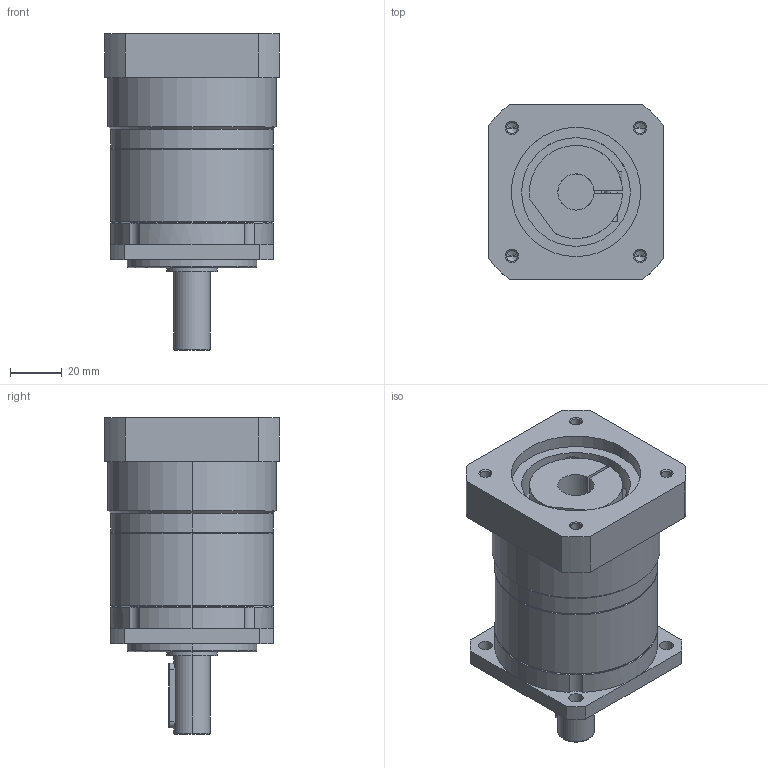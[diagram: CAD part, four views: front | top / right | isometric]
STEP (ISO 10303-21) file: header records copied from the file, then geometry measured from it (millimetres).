
FILE_DESCRIPTION(/* description */ (''),/* implementation_level */ '2;1');
FILE_NAME(/* name */ 'GPBS065-单节 外形图-∅14x36.5-∅50x6-∅70xM5-□65_step.stp',/* time_stamp */ '2025-03-20T13:20:06+08:00',/* author */ (''),/* organization */ (''),/* preprocessor_version */ 'ST-DEVELOPER v18.102',/* originating_system */ 'SIEMENS PLM Software NX 2027',/* authorisation */ '');
FILE_SCHEMA (('AUTOMOTIVE_DESIGN { 1 0 10303 214 3 1 1 1 }'));
Length unit declared in the file: millimetre
Products named in the file (1): GPBS065-单节 外形图-∅14x36.5-∅5
0x6-∅70xM5-□65_step_objects
Bounding box: 67.5 x 67.5 x 122.5 mm (x, y, z)
Volume: 292028.3 mm3; surface area: 39539.5 mm2
Topology: 1 solids, 1 shells, 170 faces, 396 edges, 236 vertices
Faces by surface type: cylinder 69, plane 51, cone 42, torus 8
Entity records: 4911 total; most frequent: DIRECTION 907, CARTESIAN_POINT 906, ORIENTED_EDGE 772, EDGE_CURVE 386, AXIS2_PLACEMENT_3D 365, VERTEX_POINT 236, EDGE_LOOP 200, CIRCLE 194
